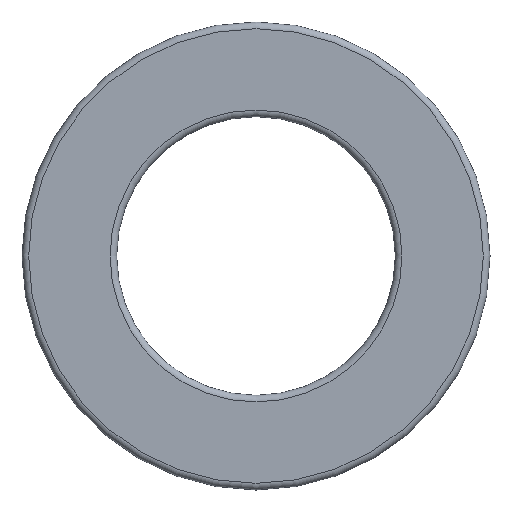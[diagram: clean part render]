
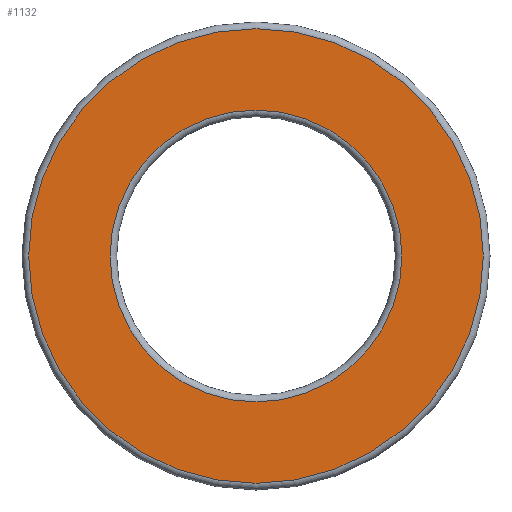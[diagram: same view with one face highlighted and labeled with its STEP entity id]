
A CAD part, front view. The second image highlights one B-rep face of the part: STEP entity #1132.
In plain terms, the highlighted planar face has unit normal (0, -1, 0).
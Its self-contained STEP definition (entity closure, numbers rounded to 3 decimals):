
#116=PLANE('',#1231);
#170=FACE_BOUND('',#345,.T.);
#253=FACE_OUTER_BOUND('',#344,.T.);
#344=EDGE_LOOP('',(#873));
#345=EDGE_LOOP('',(#874));
#505=CIRCLE('',#1230,20.4);
#506=CIRCLE('',#1232,13.1);
#636=VERTEX_POINT('',#1943);
#637=VERTEX_POINT('',#1946);
#736=EDGE_CURVE('',#636,#636,#505,.T.);
#737=EDGE_CURVE('',#637,#637,#506,.T.);
#873=ORIENTED_EDGE('',*,*,#736,.F.);
#874=ORIENTED_EDGE('',*,*,#737,.F.);
#1132=ADVANCED_FACE('',(#253,#170),#116,.T.);
#1230=AXIS2_PLACEMENT_3D('',#1944,#1481,#1482);
#1231=AXIS2_PLACEMENT_3D('',#1945,#1483,#1484);
#1232=AXIS2_PLACEMENT_3D('',#1947,#1485,#1486);
#1481=DIRECTION('center_axis',(0.,1.,0.));
#1482=DIRECTION('ref_axis',(-1.,0.,0.));
#1483=DIRECTION('center_axis',(0.,-1.,0.));
#1484=DIRECTION('ref_axis',(0.,0.,-1.));
#1485=DIRECTION('center_axis',(0.,-1.,0.));
#1486=DIRECTION('ref_axis',(-1.,0.,0.));
#1943=CARTESIAN_POINT('',(20.4,-5.5,0.));
#1944=CARTESIAN_POINT('Origin',(0.,-5.5,0.));
#1945=CARTESIAN_POINT('Origin',(12.5,-5.5,0.));
#1946=CARTESIAN_POINT('',(13.1,-5.5,0.));
#1947=CARTESIAN_POINT('Origin',(0.,-5.5,0.));
